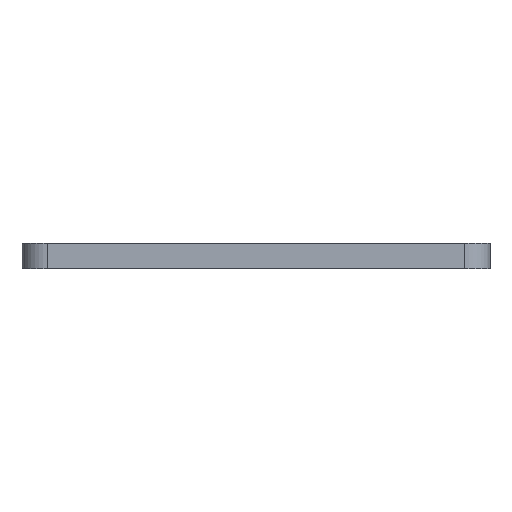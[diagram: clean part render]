
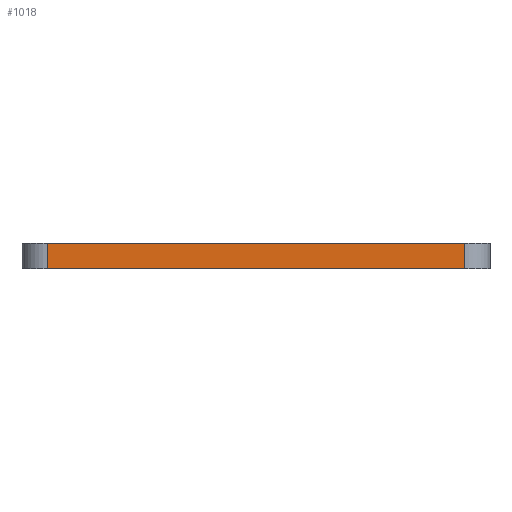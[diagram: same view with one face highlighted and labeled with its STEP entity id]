
A CAD part, front view. The second image highlights one B-rep face of the part: STEP entity #1018.
In plain terms, the highlighted planar face has unit normal (0, -1, 0).
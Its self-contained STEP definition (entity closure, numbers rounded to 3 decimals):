
#44 = PLANE('',#45);
#45 = AXIS2_PLACEMENT_3D('',#46,#47,#48);
#46 = CARTESIAN_POINT('',(-18.5,-40.,2.));
#47 = DIRECTION('',(0.,0.,1.));
#48 = DIRECTION('',(1.,0.,0.));
#72 = CYLINDRICAL_SURFACE('',#73,2.);
#73 = AXIS2_PLACEMENT_3D('',#74,#75,#76);
#74 = CARTESIAN_POINT('',(-16.5,-38.,0.));
#75 = DIRECTION('',(0.,0.,1.));
#76 = DIRECTION('',(-1.,-0.,0.));
#100 = PLANE('',#101);
#101 = AXIS2_PLACEMENT_3D('',#102,#103,#104);
#102 = CARTESIAN_POINT('',(-18.5,-40.,0.));
#103 = DIRECTION('',(0.,0.,1.));
#104 = DIRECTION('',(1.,0.,0.));
#143 = VERTEX_POINT('',#144);
#144 = CARTESIAN_POINT('',(-16.5,-40.,2.));
#166 = EDGE_CURVE('',#143,#167,#169,.T.);
#167 = VERTEX_POINT('',#168);
#168 = CARTESIAN_POINT('',(16.5,-40.,2.));
#169 = SURFACE_CURVE('',#170,(#174,#181),.PCURVE_S1.);
#170 = LINE('',#171,#172);
#171 = CARTESIAN_POINT('',(-18.5,-40.,2.));
#172 = VECTOR('',#173,1.);
#173 = DIRECTION('',(1.,0.,0.));
#174 = PCURVE('',#44,#175);
#175 = DEFINITIONAL_REPRESENTATION('',(#176),#180);
#176 = LINE('',#177,#178);
#177 = CARTESIAN_POINT('',(0.,0.));
#178 = VECTOR('',#179,1.);
#179 = DIRECTION('',(1.,0.));
#180 = ( GEOMETRIC_REPRESENTATION_CONTEXT(2) 
PARAMETRIC_REPRESENTATION_CONTEXT() REPRESENTATION_CONTEXT('2D SPACE',''
  ) );
#181 = PCURVE('',#182,#187);
#182 = PLANE('',#183);
#183 = AXIS2_PLACEMENT_3D('',#184,#185,#186);
#184 = CARTESIAN_POINT('',(-18.5,-40.,0.));
#185 = DIRECTION('',(0.,1.,0.));
#186 = DIRECTION('',(0.,0.,1.));
#187 = DEFINITIONAL_REPRESENTATION('',(#188),#192);
#188 = LINE('',#189,#190);
#189 = CARTESIAN_POINT('',(2.,0.));
#190 = VECTOR('',#191,1.);
#191 = DIRECTION('',(0.,1.));
#192 = ( GEOMETRIC_REPRESENTATION_CONTEXT(2) 
PARAMETRIC_REPRESENTATION_CONTEXT() REPRESENTATION_CONTEXT('2D SPACE',''
  ) );
#215 = CYLINDRICAL_SURFACE('',#216,2.);
#216 = AXIS2_PLACEMENT_3D('',#217,#218,#219);
#217 = CARTESIAN_POINT('',(16.5,-38.,0.));
#218 = DIRECTION('',(0.,0.,1.));
#219 = DIRECTION('',(1.,0.,-0.));
#588 = VERTEX_POINT('',#589);
#589 = CARTESIAN_POINT('',(-16.5,-40.,0.));
#611 = EDGE_CURVE('',#588,#143,#612,.T.);
#612 = SURFACE_CURVE('',#613,(#617,#624),.PCURVE_S1.);
#613 = LINE('',#614,#615);
#614 = CARTESIAN_POINT('',(-16.5,-40.,0.));
#615 = VECTOR('',#616,1.);
#616 = DIRECTION('',(0.,0.,1.));
#617 = PCURVE('',#72,#618);
#618 = DEFINITIONAL_REPRESENTATION('',(#619),#623);
#619 = LINE('',#620,#621);
#620 = CARTESIAN_POINT('',(1.571,0.));
#621 = VECTOR('',#622,1.);
#622 = DIRECTION('',(0.,1.));
#623 = ( GEOMETRIC_REPRESENTATION_CONTEXT(2) 
PARAMETRIC_REPRESENTATION_CONTEXT() REPRESENTATION_CONTEXT('2D SPACE',''
  ) );
#624 = PCURVE('',#182,#625);
#625 = DEFINITIONAL_REPRESENTATION('',(#626),#630);
#626 = LINE('',#627,#628);
#627 = CARTESIAN_POINT('',(0.,2.));
#628 = VECTOR('',#629,1.);
#629 = DIRECTION('',(1.,0.));
#630 = ( GEOMETRIC_REPRESENTATION_CONTEXT(2) 
PARAMETRIC_REPRESENTATION_CONTEXT() REPRESENTATION_CONTEXT('2D SPACE',''
  ) );
#693 = EDGE_CURVE('',#588,#694,#696,.T.);
#694 = VERTEX_POINT('',#695);
#695 = CARTESIAN_POINT('',(16.5,-40.,0.));
#696 = SURFACE_CURVE('',#697,(#701,#708),.PCURVE_S1.);
#697 = LINE('',#698,#699);
#698 = CARTESIAN_POINT('',(-18.5,-40.,0.));
#699 = VECTOR('',#700,1.);
#700 = DIRECTION('',(1.,0.,0.));
#701 = PCURVE('',#100,#702);
#702 = DEFINITIONAL_REPRESENTATION('',(#703),#707);
#703 = LINE('',#704,#705);
#704 = CARTESIAN_POINT('',(0.,0.));
#705 = VECTOR('',#706,1.);
#706 = DIRECTION('',(1.,0.));
#707 = ( GEOMETRIC_REPRESENTATION_CONTEXT(2) 
PARAMETRIC_REPRESENTATION_CONTEXT() REPRESENTATION_CONTEXT('2D SPACE',''
  ) );
#708 = PCURVE('',#182,#709);
#709 = DEFINITIONAL_REPRESENTATION('',(#710),#714);
#710 = LINE('',#711,#712);
#711 = CARTESIAN_POINT('',(0.,0.));
#712 = VECTOR('',#713,1.);
#713 = DIRECTION('',(0.,1.));
#714 = ( GEOMETRIC_REPRESENTATION_CONTEXT(2) 
PARAMETRIC_REPRESENTATION_CONTEXT() REPRESENTATION_CONTEXT('2D SPACE',''
  ) );
#1018 = ADVANCED_FACE('',(#1019),#182,.F.);
#1019 = FACE_BOUND('',#1020,.F.);
#1020 = EDGE_LOOP('',(#1021,#1022,#1023,#1024));
#1021 = ORIENTED_EDGE('',*,*,#693,.F.);
#1022 = ORIENTED_EDGE('',*,*,#611,.T.);
#1023 = ORIENTED_EDGE('',*,*,#166,.T.);
#1024 = ORIENTED_EDGE('',*,*,#1025,.F.);
#1025 = EDGE_CURVE('',#694,#167,#1026,.T.);
#1026 = SURFACE_CURVE('',#1027,(#1031,#1038),.PCURVE_S1.);
#1027 = LINE('',#1028,#1029);
#1028 = CARTESIAN_POINT('',(16.5,-40.,0.));
#1029 = VECTOR('',#1030,1.);
#1030 = DIRECTION('',(0.,0.,1.));
#1031 = PCURVE('',#182,#1032);
#1032 = DEFINITIONAL_REPRESENTATION('',(#1033),#1037);
#1033 = LINE('',#1034,#1035);
#1034 = CARTESIAN_POINT('',(0.,35.));
#1035 = VECTOR('',#1036,1.);
#1036 = DIRECTION('',(1.,0.));
#1037 = ( GEOMETRIC_REPRESENTATION_CONTEXT(2) 
PARAMETRIC_REPRESENTATION_CONTEXT() REPRESENTATION_CONTEXT('2D SPACE',''
  ) );
#1038 = PCURVE('',#215,#1039);
#1039 = DEFINITIONAL_REPRESENTATION('',(#1040),#1044);
#1040 = LINE('',#1041,#1042);
#1041 = CARTESIAN_POINT('',(-1.571,0.));
#1042 = VECTOR('',#1043,1.);
#1043 = DIRECTION('',(-0.,1.));
#1044 = ( GEOMETRIC_REPRESENTATION_CONTEXT(2) 
PARAMETRIC_REPRESENTATION_CONTEXT() REPRESENTATION_CONTEXT('2D SPACE',''
  ) );
